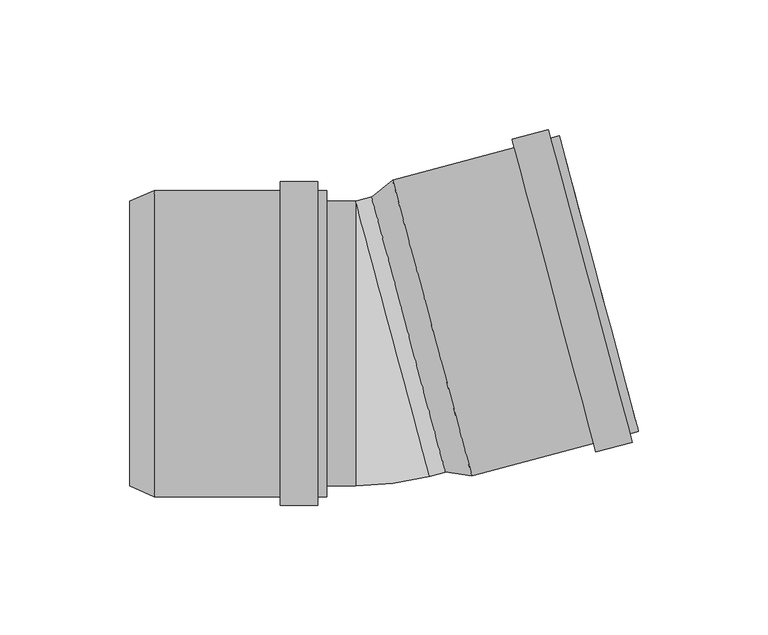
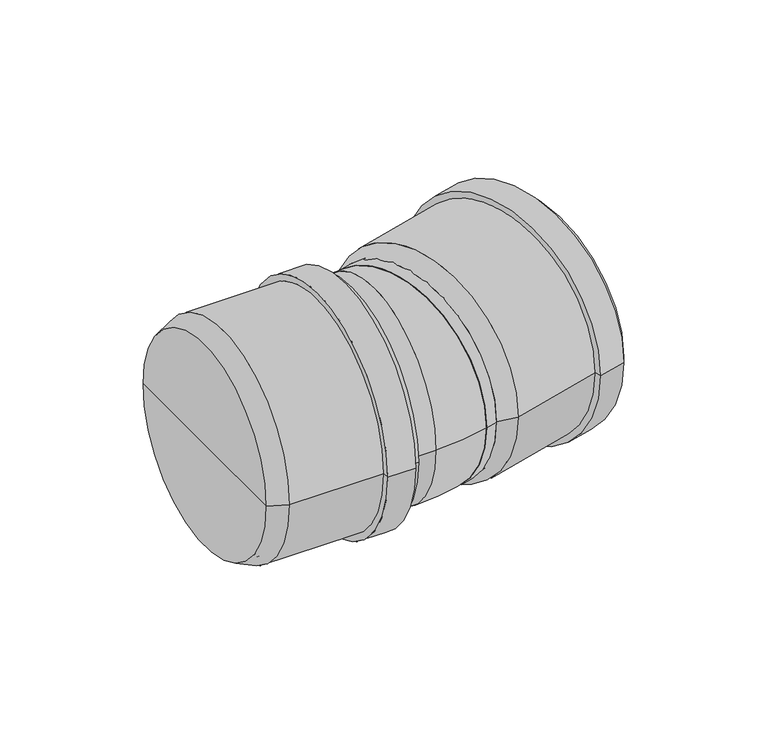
"""IFC4 building model written with IfcOpenShell, lengths in millimetres: pipe fitting geometry, pf_HTB : pf_HTB."""

import ifcopenshell
import ifcopenshell.guid

model = None  # the IFC model being written
_history = None  # IfcOwnerHistory: only IFC2X3 demands one
_inside = {}  # id of a spatial element -> (the spatial element, [elements in it])
_under = {}  # id of a project, library or spatial element -> (it, [spatial elements below it])
_declared = {}  # id of a project -> (the project, [libraries it declares])
_typed = {}  # id of a type object -> (the type object, [elements of that type])
_made_of = {}  # id of a material, layer set ... -> (it, [elements and type objects made of it])


def new_model(schema):
    """Start an empty IFC model of exactly this schema.

    Asked for "IFC4X3", IfcOpenShell would pick the latest addendum, in which some entities
    have other attributes; the version numbers below select the first issue.
    IFC2X3 requires an IfcOwnerHistory on every rooted entity: one is made here for all.
    """
    global model, _history
    if schema == "IFC4X3":
        model = ifcopenshell.file(schema_version=(4, 3, 0, 0))
    else:
        model = ifcopenshell.file(schema=schema)
    _inside.clear()
    _under.clear()
    _declared.clear()
    _typed.clear()
    _made_of.clear()
    _history = None
    if model.schema == "IFC2X3":
        org = make("IfcOrganization", Name="unknown")
        user = make(
            "IfcPersonAndOrganization",
            ThePerson=make("IfcPerson", FamilyName="unknown"),
            TheOrganization=org,
        )
        app = make(
            "IfcApplication",
            ApplicationDeveloper=org,
            Version="unknown",
            ApplicationFullName="unknown",
            ApplicationIdentifier="unknown",
        )
        _history = make(
            "IfcOwnerHistory",
            OwningUser=user,
            OwningApplication=app,
            ChangeAction="ADDED",
            CreationDate=0,
        )
    return model


def make(cls, **values):
    """One entity of the class cls with the attributes given. An attribute that is None is left unset."""
    return model.create_entity(
        cls, **{name: value for name, value in values.items() if value is not None}
    )


def rooted(cls, **values):
    """An entity with a GlobalId (a new one), such as an element, a storey or a relation."""
    return make(cls, GlobalId=ifcopenshell.guid.new(), OwnerHistory=_history, **values)


def si_unit(unit_type, name, prefix=None):
    """IfcSIUnit, for example si_unit("LENGTHUNIT", "METRE", prefix="MILLI")."""
    return make("IfcSIUnit", UnitType=unit_type, Prefix=prefix, Name=name)


def assignment(units):
    """IfcUnitAssignment: the units of a project."""
    return None if units is None else make("IfcUnitAssignment", Units=units)


def point(xyz):
    """IfcCartesianPoint."""
    return None if xyz is None else make("IfcCartesianPoint", Coordinates=xyz)


def direction(xyz):
    """IfcDirection."""
    return None if xyz is None else make("IfcDirection", DirectionRatios=xyz)


def frame(location, z_axis=None, x_axis=None):
    """IfcAxis2Placement3D, a coordinate frame: its origin and axes. An axis left out is left unset."""
    return make(
        "IfcAxis2Placement3D",
        Location=point(location),
        Axis=direction(z_axis),
        RefDirection=direction(x_axis),
    )


def frame_2d(location, x_axis=None):
    """IfcAxis2Placement2D, a coordinate frame in the plane: its origin and x axis."""
    return make(
        "IfcAxis2Placement2D", Location=point(location), RefDirection=direction(x_axis)
    )


def origin():
    """The frame at (0, 0, 0) with its axes left unset."""
    return frame((0.0, 0.0, 0.0))


def origin_2d():
    """The frame at (0, 0) in the plane with its x axis left unset."""
    return frame_2d((0.0, 0.0))


def place(relative_to, where):
    """IfcLocalPlacement: puts the frame where relative to a parent placement (None: the world)."""
    return make(
        "IfcLocalPlacement", PlacementRelTo=relative_to, RelativePlacement=where
    )


def context(
    kind, dimensions, precision=None, world=None, true_north=None, identifier=None
):
    """IfcGeometricRepresentationContext, for example the 3D "Model" context."""
    return make(
        "IfcGeometricRepresentationContext",
        ContextIdentifier=identifier,
        ContextType=kind,
        CoordinateSpaceDimension=dimensions,
        Precision=precision,
        WorldCoordinateSystem=world,
        TrueNorth=true_north,
    )


def project(units=None, contexts=None):
    """IfcProject with its units and contexts."""
    return rooted(
        "IfcProject",
        Name="project",
        RepresentationContexts=contexts,
        UnitsInContext=assignment(units),
    )


def spatial(cls, under=None, at=None, **own):
    """A site, building, storey or space (cls), placed at a placement, below another one or the project."""
    s = rooted(cls, ObjectPlacement=at, **own)
    if under is not None:
        _under.setdefault(under.id(), (under, []))[1].append(s)
    return s


def polyline(points):
    """IfcPolyline through the points."""
    return make("IfcPolyline", Points=[point(p) for p in points])


def circle_curve(where, radius):
    """IfcCircle in the frame where."""
    return make("IfcCircle", Position=where, Radius=radius)


def ellipse_curve(where, semi_axis1, semi_axis2):
    """IfcEllipse in the frame where."""
    return make(
        "IfcEllipse", Position=where, SemiAxis1=semi_axis1, SemiAxis2=semi_axis2
    )


def trimmed(basis, trim1, trim2, sense, master):
    """IfcTrimmedCurve: the piece of a basis curve between two trims."""
    return make(
        "IfcTrimmedCurve",
        BasisCurve=basis,
        Trim1=trim1,
        Trim2=trim2,
        SenseAgreement=sense,
        MasterRepresentation=master,
    )


def segment(curve, same_sense, transition):
    """IfcCompositeCurveSegment."""
    return make(
        "IfcCompositeCurveSegment",
        Transition=transition,
        SameSense=same_sense,
        ParentCurve=curve,
    )


def composite_curve(segments, self_intersect=None):
    """IfcCompositeCurve: segments joined end to end."""
    return make("IfcCompositeCurve", Segments=segments, SelfIntersect=self_intersect)


def outline(outer, holes=None, kind="AREA"):
    """IfcArbitraryClosedProfileDef: a profile drawn as a closed curve; with holes, ...WithVoids."""
    if holes is None:
        return make("IfcArbitraryClosedProfileDef", ProfileType=kind, OuterCurve=outer)
    return make(
        "IfcArbitraryProfileDefWithVoids",
        ProfileType=kind,
        OuterCurve=outer,
        InnerCurves=holes,
    )


def extrude(swept, where, along, depth):
    """IfcExtrudedAreaSolid: the profile swept, set in the frame where, extruded along a direction by depth."""
    return make(
        "IfcExtrudedAreaSolid",
        SweptArea=swept,
        Position=where,
        ExtrudedDirection=direction(along),
        Depth=depth,
    )


def shape(context_of_items, identifier, shape_type, items):
    """IfcShapeRepresentation: the items that make up one representation, for example the "Body"."""
    return make(
        "IfcShapeRepresentation",
        ContextOfItems=context_of_items,
        RepresentationIdentifier=identifier,
        RepresentationType=shape_type,
        Items=items,
    )


def source(mapping_origin, context_of_items, identifier, shape_type, items):
    """IfcRepresentationMap: a shape defined once, which mapped items show again and again."""
    return make(
        "IfcRepresentationMap",
        MappingOrigin=mapping_origin,
        MappedRepresentation=shape(context_of_items, identifier, shape_type, items),
    )


def transform(
    local_origin,
    x_axis=None,
    y_axis=None,
    z_axis=None,
    scale=None,
    scale2=None,
    scale3=None,
    uniform=True,
):
    """IfcCartesianTransformationOperator3D, or its non-uniform kind. x_axis, y_axis, z_axis: its Axis1, 2, 3."""
    if uniform:
        return make(
            "IfcCartesianTransformationOperator3D",
            Axis1=direction(x_axis),
            Axis2=direction(y_axis),
            LocalOrigin=point(local_origin),
            Scale=scale,
            Axis3=direction(z_axis),
        )
    return make(
        "IfcCartesianTransformationOperator3DnonUniform",
        Axis1=direction(x_axis),
        Axis2=direction(y_axis),
        LocalOrigin=point(local_origin),
        Scale=scale,
        Axis3=direction(z_axis),
        Scale2=scale2,
        Scale3=scale3,
    )


def mapped(mapping_source, mapping_target):
    """IfcMappedItem: shows the shape of a source again, moved by a transform."""
    return make(
        "IfcMappedItem", MappingSource=mapping_source, MappingTarget=mapping_target
    )


def made_of(thing, what):
    """Note that an element or type object is made of a material, layer set ...; save() writes the relation."""
    if what is not None:
        _made_of.setdefault(what.id(), (what, []))[1].append(thing)
    return thing


def element(
    cls,
    number,
    at=None,
    inside=None,
    cuts=None,
    type_object=None,
    material=None,
    context=None,
    identifier="Body",
    shape_type=None,
    held_by="IfcProductDefinitionShape",
    body=None,
    shapes=None,
    **own,
):
    """One element of the class cls, such as IfcWall. Its Tag is "e" and its number.

    at: its placement. inside: the storey or other place that contains it. cuts: it is an
    opening in that element (IfcRelVoidsElement). A single representation is given by context,
    identifier, shape_type and body (its items); several are given by shapes. held_by: the class
    of the entity that holds the representations. save() writes the other relations.
    """
    e = rooted(cls, Tag="e%d" % number, ObjectPlacement=at, **own)
    if body is not None:
        shapes = [shape(context, identifier, shape_type, body)]
    if shapes is not None:
        e.Representation = make(held_by, Representations=shapes)
    if inside is not None:
        _inside.setdefault(inside.id(), (inside, []))[1].append(e)
    if cuts is not None:
        rooted(
            "IfcRelVoidsElement", RelatingBuildingElement=cuts, RelatedOpeningElement=e
        )
    if type_object is not None:
        _typed.setdefault(type_object.id(), (type_object, []))[1].append(e)
    return made_of(e, material)


def aggregate(whole, parts):
    """IfcRelAggregates: a whole, such as a stair, and the parts it consists of."""
    return rooted("IfcRelAggregates", RelatingObject=whole, RelatedObjects=parts)


def save(model, path):
    """Write the relations noted so far, then the file.

    IfcRelAggregates (storeys below a building ...), IfcRelContainedInSpatialStructure (elements
    in a storey), IfcRelDefinesByType, IfcRelAssociatesMaterial and IfcRelDeclares: one each for
    every whole, place, type object, material and project.
    """
    for whole, parts in _under.values():
        aggregate(whole, parts)
    for where, things in _inside.values():
        rooted(
            "IfcRelContainedInSpatialStructure",
            RelatedElements=things,
            RelatingStructure=where,
        )
    for kind, things in _typed.values():
        rooted("IfcRelDefinesByType", RelatedObjects=things, RelatingType=kind)
    for what, things in _made_of.values():
        rooted("IfcRelAssociatesMaterial", RelatedObjects=things, RelatingMaterial=what)
    for by, libraries in _declared.values():
        rooted("IfcRelDeclares", RelatingContext=by, RelatedDefinitions=libraries)
    model.write(path)


def plane_surface(at):
    """IfcPlane: the flat surface through the origin of the frame at, square to its z axis."""
    return make("IfcPlane", Position=at)


def cylinder_surface(at, radius):
    """IfcCylindricalSurface: all points at the distance radius from the z axis of the frame at."""
    return make("IfcCylindricalSurface", Position=at, Radius=radius)


def revolved_surface(curve, axis_point, axis_direction):
    """IfcSurfaceOfRevolution: the curve turned about the line through axis_point along axis_direction."""
    return make(
        "IfcSurfaceOfRevolution",
        SweptCurve=make("IfcArbitraryOpenProfileDef", ProfileType="CURVE", Curve=curve),
        AxisPosition=make("IfcAxis1Placement", Location=point(axis_point), Axis=direction(axis_direction)),
    )


def advanced_brep(points, edges, surfaces, faces):
    """IfcAdvancedBrep: a solid bounded by faces that lie on surfaces and meet in shared edges.

    An edge is (start, end): straight between two places in points (the first is 0);
    or (start, end, curve); or (start, end, curve, False) where it runs against its curve.
    A face is (place in surfaces, loops), or (place, loops, False) where it looks against
    its surface's normal. A loop lists edges by number (the first is 1), with a minus sign
    where the edge is run from its end to its start. The first loop is the outer one.
    """
    corners = [point(p) for p in points]
    vertices = [make("IfcVertexPoint", VertexGeometry=c) for c in corners]
    made = []
    for start, end, *more in edges:
        made.append(
            make(
                "IfcEdgeCurve",
                EdgeStart=vertices[start],
                EdgeEnd=vertices[end],
                EdgeGeometry=more[0] if more else make("IfcPolyline", Points=[corners[start], corners[end]]),
                SameSense=more[1] if len(more) > 1 else True,
            )
        )
    hull = []
    for where, loops, *sense in faces:
        bounds = []
        for j, loop in enumerate(loops):
            ring = [make("IfcOrientedEdge", EdgeElement=made[abs(k) - 1], Orientation=k > 0) for k in loop]
            bounds.append(
                make(
                    "IfcFaceOuterBound" if j == 0 else "IfcFaceBound",
                    Bound=make("IfcEdgeLoop", EdgeList=ring),
                    Orientation=True,
                )
            )
        hull.append(make("IfcAdvancedFace", Bounds=bounds, FaceSurface=surfaces[where], SameSense=sense[0] if sense else True))
    return make("IfcAdvancedBrep", Outer=make("IfcClosedShell", CfsFaces=hull))


def pipe_fitting_d87b3533(model_context):
    return source(origin(), model_context, "Body", "SolidModel", [
        advanced_brep(
        [(27.3716387, -49.6059814, 0.0), (-1.0984562, 56.6458595, 0.0), (7.016681, 63.0649363, 0.0), (37.6090922, -51.1074964, 0.0), (13.1365912, 3.519939, 0.0), (101.8431596, -33.8960299, 0.0), (71.2507485, 80.2764028, 0.0), (72.3119066, 76.3161069, 0.0), (100.7820015, -29.935734, 0.0), (98.5590118, -34.7760146, 0.0), (67.9666007, 79.396418, 0.0), (99.4389965, -38.0601625, 0.0), (67.0866159, 82.6805658, 0.0), (85.4330721, -41.8130386, 0.0), (53.0806914, 78.9276897, 0.0), (84.5530873, -38.5288908, 0.0), (53.9606762, 75.6435419, 0.0), (36.5479341, -47.1472005, 0.0), (8.0778391, 59.1046404, 0.0), (22.3128866, 5.9787199, 0.0)],
        [
            (0, 1, circle_curve(frame((13.1365912, 3.519939, 0.0), z_axis=(0.9659258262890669, 0.25881904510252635, 0.0), x_axis=(-0.25881904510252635, 0.9659258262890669, 0.0)), 55.0)),
            (1, 2),
            (2, 3, circle_curve(frame((22.3128866, 5.9787199, 0.0), z_axis=(-0.9659258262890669, -0.25881904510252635, 0.0), x_axis=(-0.25881904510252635, 0.9659258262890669, 0.0)), 59.1)),
            (3, 0),
            (1, 0, circle_curve(frame((13.1365912, 3.519939, 0.0), z_axis=(0.9659258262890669, 0.25881904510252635, 0.0), x_axis=(-0.25881904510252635, 0.9659258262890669, 0.0)), 55.0)),
            (3, 2, circle_curve(frame((22.3128866, 5.9787199, 0.0), z_axis=(-0.9659258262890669, -0.25881904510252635, 0.0), x_axis=(-0.25881904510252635, 0.9659258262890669, 0.0)), 59.1)),
            (4, 1),
            (0, 4),
            (5, 6, circle_curve(frame((86.546954, 23.1901864, 0.0), z_axis=(0.9659258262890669, 0.25881904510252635, 0.0), x_axis=(-0.25881904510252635, 0.9659258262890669, 0.0)), 59.1)),
            (6, 7),
            (7, 8, circle_curve(frame((86.546954, 23.1901864, 0.0), z_axis=(-0.9659258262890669, -0.25881904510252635, 0.0), x_axis=(-0.25881904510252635, 0.9659258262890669, 0.0)), 55.0)),
            (8, 5),
            (6, 5, circle_curve(frame((86.546954, 23.1901864, 0.0), z_axis=(0.9659258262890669, 0.25881904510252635, 0.0), x_axis=(-0.25881904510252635, 0.9659258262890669, 0.0)), 59.1)),
            (8, 7, circle_curve(frame((86.546954, 23.1901864, 0.0), z_axis=(-0.9659258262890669, -0.25881904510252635, 0.0), x_axis=(-0.25881904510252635, 0.9659258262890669, 0.0)), 55.0)),
            (9, 10, circle_curve(frame((83.2628062, 22.3102017, 0.0), z_axis=(0.9659258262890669, 0.25881904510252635, 0.0), x_axis=(-0.25881904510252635, 0.9659258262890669, 0.0)), 59.1)),
            (10, 6),
            (5, 9),
            (10, 9, circle_curve(frame((83.2628062, 22.3102017, 0.0), z_axis=(0.9659258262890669, 0.25881904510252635, 0.0), x_axis=(-0.25881904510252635, 0.9659258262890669, 0.0)), 59.1)),
            (11, 12, circle_curve(frame((83.2628062, 22.3102017, 0.0), z_axis=(0.9659258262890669, 0.25881904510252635, 0.0), x_axis=(-0.25881904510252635, 0.9659258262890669, 0.0)), 62.5)),
            (12, 10),
            (9, 11),
            (12, 11, circle_curve(frame((83.2628062, 22.3102017, 0.0), z_axis=(0.9659258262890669, 0.25881904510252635, 0.0), x_axis=(-0.25881904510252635, 0.9659258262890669, 0.0)), 62.5)),
            (13, 14, circle_curve(frame((69.2568817, 18.5573255, 0.0), z_axis=(0.9659258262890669, 0.25881904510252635, 0.0), x_axis=(-0.25881904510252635, 0.9659258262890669, 0.0)), 62.5)),
            (14, 12),
            (11, 13),
            (14, 13, circle_curve(frame((69.2568817, 18.5573255, 0.0), z_axis=(0.9659258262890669, 0.25881904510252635, 0.0), x_axis=(-0.25881904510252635, 0.9659258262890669, 0.0)), 62.5)),
            (15, 16, circle_curve(frame((69.2568817, 18.5573255, 0.0), z_axis=(0.9659258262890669, 0.25881904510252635, 0.0), x_axis=(-0.25881904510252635, 0.9659258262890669, 0.0)), 59.1)),
            (16, 14),
            (13, 15),
            (16, 15, circle_curve(frame((69.2568817, 18.5573255, 0.0), z_axis=(0.9659258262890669, 0.25881904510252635, 0.0), x_axis=(-0.25881904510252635, 0.9659258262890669, 0.0)), 59.1)),
            (2, 16),
            (15, 3),
            (17, 18, circle_curve(frame((22.3128866, 5.9787199, 0.0), z_axis=(0.9659258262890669, 0.25881904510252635, 0.0), x_axis=(-0.25881904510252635, 0.9659258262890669, 0.0)), 55.0)),
            (18, 19),
            (19, 17),
            (18, 17, circle_curve(frame((22.3128866, 5.9787199, 0.0), z_axis=(0.9659258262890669, 0.25881904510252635, 0.0), x_axis=(-0.25881904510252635, 0.9659258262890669, 0.0)), 55.0)),
            (7, 18),
            (17, 8),
        ],
        [
            revolved_surface(polyline([(7.016681, 63.0649363, 0.0), (-1.0984562, 56.6458595, 0.0)]), (13.1365912, 3.519939, 0.0), (-0.9659258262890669, -0.25881904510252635, 0.0)),
            plane_surface(frame((13.1365912, 3.519939, 0.0), z_axis=(-0.9659258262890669, -0.25881904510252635, 0.0), x_axis=(-0.25881904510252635, 0.9659258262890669, 0.0))),
            plane_surface(frame((86.546954, 23.1901864, 0.0), z_axis=(0.9659258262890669, 0.25881904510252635, 0.0), x_axis=(-0.25881904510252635, 0.9659258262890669, 0.0))),
            cylinder_surface(frame((13.1365912, 3.519939, 0.0), z_axis=(-0.9659258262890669, -0.25881904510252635, 0.0), x_axis=(-0.25881904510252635, 0.9659258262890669, 0.0)), 59.1),
            plane_surface(frame((83.2628062, 22.3102017, 0.0), z_axis=(0.9659258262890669, 0.25881904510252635, 0.0), x_axis=(-0.25881904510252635, 0.9659258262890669, 0.0))),
            cylinder_surface(frame((13.1365912, 3.519939, 0.0), z_axis=(-0.9659258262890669, -0.25881904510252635, 0.0), x_axis=(-0.25881904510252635, 0.9659258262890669, 0.0)), 62.5),
            plane_surface(frame((69.2568817, 18.5573255, 0.0), z_axis=(-0.9659258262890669, -0.25881904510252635, 0.0), x_axis=(-0.25881904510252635, 0.9659258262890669, 0.0))),
            plane_surface(frame((22.3128866, 5.9787199, 0.0), z_axis=(0.9659258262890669, 0.25881904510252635, 0.0), x_axis=(-0.25881904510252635, 0.9659258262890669, 0.0))),
            revolved_surface(polyline([(8.077839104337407, 59.10464038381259, 0.0), (72.31190660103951, 76.31610689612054, 0.0)]), (13.1365912, 3.519939, 0.0), (-0.9659258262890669, -0.25881904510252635, 0.0)),
        ],
        [
            (0, [[1, 2, 3, 4]]),
            (0, [[5, -4, 6, -2]]),
            (1, [[7, -1, 8]]),
            (1, [[-8, -5, -7]]),
            (2, [[9, 10, 11, 12]]),
            (2, [[13, -12, 14, -10]]),
            (3, [[15, 16, -9, 17]]),
            (3, [[18, -17, -13, -16]]),
            (4, [[19, 20, -15, 21]]),
            (4, [[22, -21, -18, -20]]),
            (5, [[23, 24, -19, 25]]),
            (5, [[26, -25, -22, -24]]),
            (6, [[27, 28, -23, 29]]),
            (6, [[30, -29, -26, -28]]),
            (3, [[-3, 31, -27, 32]]),
            (3, [[-6, -32, -30, -31]]),
            (7, [[33, 34, 35]]),
            (7, [[36, -35, -34]]),
            (8, [[-11, 37, -33, 38]]),
            (8, [[-14, -38, -36, -37]]),
        ],
    ),
        advanced_brep(
        [(-94.5, -55.0, 0.0), (-94.5, 55.0, 0.0), (-85.0, 59.1, 0.0), (-85.0, -59.1, 0.0), (-94.5, 0.0, 0.0), (-18.5, -59.1, 0.0), (-18.5, 59.1, 0.0), (-18.5, 55.0, 0.0), (-18.5, -55.0, 0.0), (-21.9, -59.1, 0.0), (-21.9, 59.1, 0.0), (-21.9, -62.5, 0.0), (-21.9, 62.5, 0.0), (-36.4, -62.5, 0.0), (-36.4, 62.5, 0.0), (-36.4, -59.1, 0.0), (-36.4, 59.1, 0.0), (-85.0, -55.0, 0.0), (-85.0, 55.0, 0.0), (-85.0, 0.0, 0.0)],
        [
            (0, 1, circle_curve(frame((-94.5, 0.0, 0.0), z_axis=(1.0, 0.0, 0.0), x_axis=(0.0, 1.0, 0.0)), 55.0)),
            (1, 2),
            (2, 3, circle_curve(frame((-85.0, 0.0, 0.0), z_axis=(-1.0, 0.0, 0.0), x_axis=(0.0, 1.0, 0.0)), 59.1)),
            (3, 0),
            (1, 0, circle_curve(frame((-94.5, 0.0, 0.0), z_axis=(1.0, 0.0, 0.0), x_axis=(0.0, 1.0, 0.0)), 55.0)),
            (3, 2, circle_curve(frame((-85.0, 0.0, 0.0), z_axis=(-1.0, 0.0, 0.0), x_axis=(0.0, 1.0, 0.0)), 59.1)),
            (4, 1),
            (0, 4),
            (5, 6, circle_curve(frame((-18.5, 0.0, 0.0), z_axis=(1.0, 0.0, 0.0), x_axis=(0.0, 1.0, 0.0)), 59.1)),
            (6, 7),
            (7, 8, circle_curve(frame((-18.5, 0.0, 0.0), z_axis=(-1.0, 0.0, 0.0), x_axis=(0.0, 1.0, 0.0)), 55.0)),
            (8, 5),
            (6, 5, circle_curve(frame((-18.5, 0.0, 0.0), z_axis=(1.0, 0.0, 0.0), x_axis=(0.0, 1.0, 0.0)), 59.1)),
            (8, 7, circle_curve(frame((-18.5, 0.0, 0.0), z_axis=(-1.0, 0.0, 0.0), x_axis=(0.0, 1.0, 0.0)), 55.0)),
            (9, 10, circle_curve(frame((-21.9, 0.0, 0.0), z_axis=(1.0, 0.0, 0.0), x_axis=(0.0, 1.0, 0.0)), 59.1)),
            (10, 6),
            (5, 9),
            (10, 9, circle_curve(frame((-21.9, 0.0, 0.0), z_axis=(1.0, 0.0, 0.0), x_axis=(0.0, 1.0, 0.0)), 59.1)),
            (11, 12, circle_curve(frame((-21.9, 0.0, 0.0), z_axis=(1.0, 0.0, 0.0), x_axis=(0.0, 1.0, 0.0)), 62.5)),
            (12, 10),
            (9, 11),
            (12, 11, circle_curve(frame((-21.9, 0.0, 0.0), z_axis=(1.0, 0.0, 0.0), x_axis=(0.0, 1.0, 0.0)), 62.5)),
            (13, 14, circle_curve(frame((-36.4, 0.0, 0.0), z_axis=(1.0, 0.0, 0.0), x_axis=(0.0, 1.0, 0.0)), 62.5)),
            (14, 12),
            (11, 13),
            (14, 13, circle_curve(frame((-36.4, 0.0, 0.0), z_axis=(1.0, 0.0, 0.0), x_axis=(0.0, 1.0, 0.0)), 62.5)),
            (15, 16, circle_curve(frame((-36.4, 0.0, 0.0), z_axis=(1.0, 0.0, 0.0), x_axis=(0.0, 1.0, 0.0)), 59.1)),
            (16, 14),
            (13, 15),
            (16, 15, circle_curve(frame((-36.4, 0.0, 0.0), z_axis=(1.0, 0.0, 0.0), x_axis=(0.0, 1.0, 0.0)), 59.1)),
            (2, 16),
            (15, 3),
            (17, 18, circle_curve(frame((-85.0, 0.0, 0.0), z_axis=(1.0, 0.0, 0.0), x_axis=(0.0, 1.0, 0.0)), 55.0)),
            (18, 19),
            (19, 17),
            (18, 17, circle_curve(frame((-85.0, 0.0, 0.0), z_axis=(1.0, 0.0, 0.0), x_axis=(0.0, 1.0, 0.0)), 55.0)),
            (7, 18),
            (17, 8),
        ],
        [
            revolved_surface(polyline([(-85.0, 59.1, 0.0), (-94.5, 55.0, 0.0)]), (-94.5, 0.0, 0.0), (-1.0, 0.0, 0.0)),
            plane_surface(frame((-94.5, 0.0, 0.0), z_axis=(-1.0, 0.0, 0.0), x_axis=(0.0, 1.0, 0.0))),
            plane_surface(frame((-18.5, 0.0, 0.0), z_axis=(1.0, 0.0, 0.0), x_axis=(0.0, 1.0, 0.0))),
            cylinder_surface(frame((-94.5, 0.0, 0.0), z_axis=(-1.0, 0.0, 0.0), x_axis=(0.0, 1.0, 0.0)), 59.1),
            plane_surface(frame((-21.9, 0.0, 0.0), z_axis=(1.0, 0.0, 0.0), x_axis=(0.0, 1.0, 0.0))),
            cylinder_surface(frame((-94.5, 0.0, 0.0), z_axis=(-1.0, 0.0, 0.0), x_axis=(0.0, 1.0, 0.0)), 62.5),
            plane_surface(frame((-36.4, 0.0, 0.0), z_axis=(-1.0, 0.0, 0.0), x_axis=(0.0, 1.0, 0.0))),
            plane_surface(frame((-85.0, 0.0, 0.0), z_axis=(1.0, 0.0, 0.0), x_axis=(0.0, 1.0, 0.0))),
            revolved_surface(polyline([(-85.0, 55.0, 0.0), (-18.5, 55.0, 0.0)]), (-94.5, 0.0, 0.0), (-1.0, 0.0, 0.0)),
        ],
        [
            (0, [[1, 2, 3, 4]]),
            (0, [[5, -4, 6, -2]]),
            (1, [[7, -1, 8]]),
            (1, [[-8, -5, -7]]),
            (2, [[9, 10, 11, 12]]),
            (2, [[13, -12, 14, -10]]),
            (3, [[15, 16, -9, 17]]),
            (3, [[18, -17, -13, -16]]),
            (4, [[19, 20, -15, 21]]),
            (4, [[22, -21, -18, -20]]),
            (5, [[23, 24, -19, 25]]),
            (5, [[26, -25, -22, -24]]),
            (6, [[27, 28, -23, 29]]),
            (6, [[30, -29, -26, -28]]),
            (3, [[-3, 31, -27, 32]]),
            (3, [[-6, -32, -30, -31]]),
            (7, [[33, 34, 35]]),
            (7, [[36, -35, -34]]),
            (8, [[-11, 37, -33, 38]]),
            (8, [[-14, -38, -36, -37]]),
        ],
    ),
        extrude(outline(composite_curve([segment(trimmed(circle_curve(origin_2d(), 55.0), [point((0.0, -55.0))], [point((0.0, 55.0000001))], False, "CARTESIAN"), True, "CONTINUOUS"), segment(trimmed(circle_curve(origin_2d(), 55.0), [point((0.0, 55.0000001))], [point((0.0, -55.0))], False, "CARTESIAN"), True, "CONTINUOUS")], self_intersect=False)), frame((6.9941601, 1.8740796, 0.0), z_axis=(0.9659258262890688, 0.258819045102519, 0.0), x_axis=(0.0, 0.0, 1.0)), (0.0, 0.0, 1.0), 15.8591126),
        extrude(outline(composite_curve([segment(trimmed(circle_curve(origin_2d(), 55.0), [point((-55.0, 0.0))], [point((55.0, 0.0))], False, "CARTESIAN"), True, "CONTINUOUS"), segment(trimmed(circle_curve(origin_2d(), 55.0), [point((55.0, 0.0))], [point((-55.0, 0.0))], False, "CARTESIAN"), True, "CONTINUOUS")], self_intersect=False)), frame((-85.0, 0.0, 0.0), z_axis=(1.0, 0.0, 0.0), x_axis=(0.0, 1.0, 0.0)), (0.0, 0.0, 1.0), 77.7591126),
        advanced_brep(
        [(-7.2408874, -55.0, 0.0), (-7.2408874, 55.0, 0.0), (21.2292076, -51.2518409, 0.0)],
        [
            (0, 1, circle_curve(frame((-7.2408874, 0.0, 0.0), z_axis=(-1.0, 0.0, 0.0), x_axis=(0.0, 1.0, 0.0)), 55.0)),
            (1, 0, circle_curve(frame((-7.2408874, 0.0, 0.0), z_axis=(-1.0, 0.0, 0.0), x_axis=(0.0, 1.0, 0.0)), 55.0)),
            (2, 1, circle_curve(frame((6.9941601, 1.8740796, 0.0), z_axis=(0.9659258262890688, 0.25881904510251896, 0.0), x_axis=(-0.25881904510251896, 0.9659258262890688, 0.0)), 55.0)),
            (1, 2, circle_curve(frame((6.9941601, 1.8740796, 0.0), z_axis=(0.9659258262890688, 0.25881904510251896, 0.0), x_axis=(-0.25881904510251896, 0.9659258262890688, 0.0)), 55.0)),
            (2, 0, circle_curve(frame((-7.2408874, 55.0, 0.0), z_axis=(0.0, 0.0, -1.0), x_axis=(0.0, -1.0, 0.0)), 110.0)),
        ],
        [
            plane_surface(frame((-7.2408874, 55.0, -14.8), z_axis=(-1.0, 0.0, 0.0), x_axis=(0.0, -1.0, 0.0))),
            plane_surface(frame((-7.2408874, 55.0, -14.8), z_axis=(0.9659258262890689, 0.258819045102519, 0.0), x_axis=(0.258819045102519, -0.9659258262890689, 0.0))),
            revolved_surface(trimmed(ellipse_curve(frame((-7.2408874, 0.0, 0.0), z_axis=(1.0, 0.0, 0.0), x_axis=(0.0, 1.0, 0.0)), 55.0, 55.0), [point((-7.2408874, -55.0, 0.0))], [point((-7.2408874, 55.0, 0.0))], True, "CARTESIAN"), (-7.2408874, 55.0, -14.8), (0.0, 0.0, -1.0)),
            revolved_surface(trimmed(ellipse_curve(frame((-7.2408874, 0.0, 0.0), z_axis=(1.0, 0.0, 0.0), x_axis=(0.0, 1.0, 0.0)), 55.0, 55.0), [point((-7.2408874, 55.0, 0.0))], [point((-7.2408874, -55.0, 0.0))], True, "CARTESIAN"), (-7.2408874, 55.0, -14.8), (0.0, 0.0, -1.0)),
        ],
        [
            (0, [[1, 2]]),
            (1, [[3, 4]]),
            (2, [[5, -2, -3]]),
            (3, [[-1, -5, -4]]),
        ],
    ),
    ])


if __name__ == "__main__":
    model = new_model("IFC4")
    model_context = context("Model", 3, world=origin())
    ifc_project = project(units=[si_unit("LENGTHUNIT", "METRE", prefix="MILLI")], contexts=[model_context])
    site = spatial("IfcSite", under=ifc_project)
    building = spatial("IfcBuilding", under=site)
    placement = place(None, origin())
    pipe_fitting_shape = pipe_fitting_d87b3533(model_context)
    element("IfcPipeFitting", 1, ObjectType="pf_HTB : pf_HTB", at=placement, inside=building, context=model_context, shape_type="MappedRepresentation", body=[
        mapped(pipe_fitting_shape, transform((0.0, 0.0, 0.0), x_axis=(1.0, 0.0, 0.0), y_axis=(0.0, 1.0, 0.0), z_axis=(0.0, 0.0, 1.0))),
    ])
    save(model, "model.ifc")
